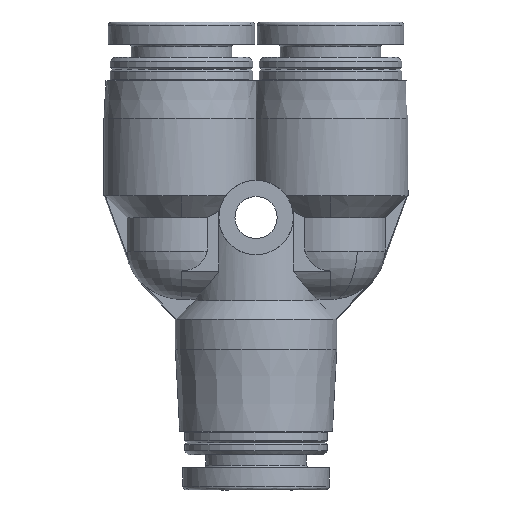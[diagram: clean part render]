
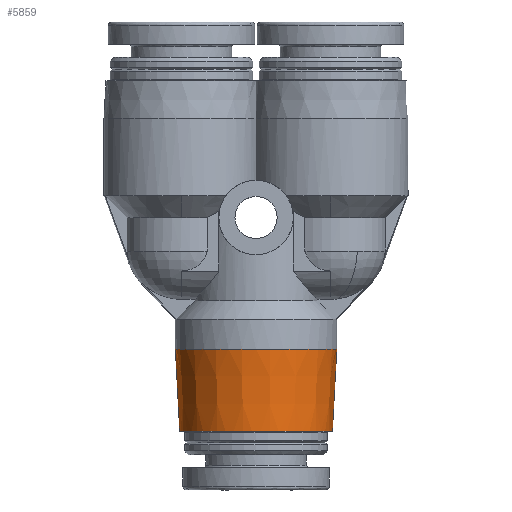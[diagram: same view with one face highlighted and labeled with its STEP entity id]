
A CAD part, front view. The second image highlights one B-rep face of the part: STEP entity #5859.
In plain terms, the highlighted conical face has half-angle 3 degrees and reference radius 6.5 mm.
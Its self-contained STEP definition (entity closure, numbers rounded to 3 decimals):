
#33 = VERTEX_POINT ( 'NONE', #352 ) ;
#158 = EDGE_CURVE ( 'NONE', #4318, #33, #2057, .T. ) ;
#352 = CARTESIAN_POINT ( 'NONE',  ( 6.154, 0., -17.2 ) ) ;
#694 = LINE ( 'NONE', #4613, #6469 ) ;
#825 = CONICAL_SURFACE ( 'NONE', #4818, 6.5, 0.052 ) ;
#995 = VECTOR ( 'NONE', #3112, 1000. ) ;
#1197 = CARTESIAN_POINT ( 'NONE',  ( 0., 0., -10.6 ) ) ;
#1290 = CARTESIAN_POINT ( 'NONE',  ( 0., 0., -10.6 ) ) ;
#1466 = EDGE_CURVE ( 'NONE', #4318, #5758, #694, .T. ) ;
#1514 = CARTESIAN_POINT ( 'NONE',  ( -6.5, 0., -10.6 ) ) ;
#1742 = DIRECTION ( 'NONE',  ( 0., 0., 1. ) ) ;
#1832 = DIRECTION ( 'NONE',  ( 1., 0., 0. ) ) ;
#1878 = ORIENTED_EDGE ( 'NONE', *, *, #3810, .F. ) ;
#2057 = B_SPLINE_CURVE_WITH_KNOTS ( 'NONE', 3,
 ( #2454, #2432, #2498, #2513, #2531, #2553, #2564, #2579, #2586, #2593, #2611, #2630, #2641, #2683, #3493, #3448, #3316, #3255 ),
 .UNSPECIFIED., .F., .F.,
 ( 4, 2, 2, 2, 2, 2, 2, 2, 4 ),
 ( 0., 0.125, 0.25, 0.375, 0.5, 0.625, 0.75, 0.875, 1. ),
 .UNSPECIFIED. ) ;
#2149 = VERTEX_POINT ( 'NONE', #6504 ) ;
#2432 = CARTESIAN_POINT ( 'NONE',  ( -6.154, -0.806, -17.2 ) ) ;
#2454 = CARTESIAN_POINT ( 'NONE',  ( -6.154, 0., -17.2 ) ) ;
#2498 = CARTESIAN_POINT ( 'NONE',  ( -5.994, -1.611, -17.2 ) ) ;
#2513 = CARTESIAN_POINT ( 'NONE',  ( -5.377, -3.099, -17.2 ) ) ;
#2531 = CARTESIAN_POINT ( 'NONE',  ( -4.921, -3.782, -17.2 ) ) ;
#2553 = CARTESIAN_POINT ( 'NONE',  ( -3.782, -4.921, -17.2 ) ) ;
#2564 = CARTESIAN_POINT ( 'NONE',  ( -3.099, -5.377, -17.2 ) ) ;
#2579 = CARTESIAN_POINT ( 'NONE',  ( -1.611, -5.994, -17.2 ) ) ;
#2586 = CARTESIAN_POINT ( 'NONE',  ( -0.806, -6.154, -17.2 ) ) ;
#2593 = CARTESIAN_POINT ( 'NONE',  ( 0.806, -6.154, -17.2 ) ) ;
#2611 = CARTESIAN_POINT ( 'NONE',  ( 1.611, -5.994, -17.2 ) ) ;
#2630 = CARTESIAN_POINT ( 'NONE',  ( 3.099, -5.377, -17.2 ) ) ;
#2641 = CARTESIAN_POINT ( 'NONE',  ( 3.782, -4.921, -17.2 ) ) ;
#2683 = CARTESIAN_POINT ( 'NONE',  ( 4.921, -3.782, -17.2 ) ) ;
#2963 = DIRECTION ( 'NONE',  ( -0.052, 0., 0.999 ) ) ;
#3112 = DIRECTION ( 'NONE',  ( 0.052, 0., 0.999 ) ) ;
#3221 = ORIENTED_EDGE ( 'NONE', *, *, #158, .T. ) ;
#3255 = CARTESIAN_POINT ( 'NONE',  ( 6.154, 0., -17.2 ) ) ;
#3316 = CARTESIAN_POINT ( 'NONE',  ( 6.154, -0.806, -17.2 ) ) ;
#3448 = CARTESIAN_POINT ( 'NONE',  ( 5.994, -1.611, -17.2 ) ) ;
#3493 = CARTESIAN_POINT ( 'NONE',  ( 5.377, -3.099, -17.2 ) ) ;
#3725 = ORIENTED_EDGE ( 'NONE', *, *, #1466, .F. ) ;
#3810 = EDGE_CURVE ( 'NONE', #5758, #2149, #6559, .T. ) ;
#3973 = LINE ( 'NONE', #7073, #995 ) ;
#4318 = VERTEX_POINT ( 'NONE', #7302 ) ;
#4359 = ORIENTED_EDGE ( 'NONE', *, *, #6501, .T. ) ;
#4506 = EDGE_LOOP ( 'NONE', ( #3725, #3221, #4359, #1878 ) ) ;
#4613 = CARTESIAN_POINT ( 'NONE',  ( -6.5, 0., -10.6 ) ) ;
#4818 = AXIS2_PLACEMENT_3D ( 'NONE', #1197, #1742, #5683 ) ;
#5197 = DIRECTION ( 'NONE',  ( 0., 0., 1. ) ) ;
#5683 = DIRECTION ( 'NONE',  ( 1., 0., 0. ) ) ;
#5758 = VERTEX_POINT ( 'NONE', #1514 ) ;
#5859 = ADVANCED_FACE ( '67', ( #6813 ), #825, .T. ) ;
#6469 = VECTOR ( 'NONE', #2963, 1000. ) ;
#6501 = EDGE_CURVE ( 'NONE', #33, #2149, #3973, .T. ) ;
#6504 = CARTESIAN_POINT ( 'NONE',  ( 6.5, 0., -10.6 ) ) ;
#6559 = CIRCLE ( 'NONE', #7058, 6.5 ) ;
#6813 = FACE_OUTER_BOUND ( 'NONE', #4506, .T. ) ;
#7058 = AXIS2_PLACEMENT_3D ( 'NONE', #1290, #5197, #1832 ) ;
#7073 = CARTESIAN_POINT ( 'NONE',  ( 6.5, 0., -10.6 ) ) ;
#7302 = CARTESIAN_POINT ( 'NONE',  ( -6.154, 0., -17.2 ) ) ;
